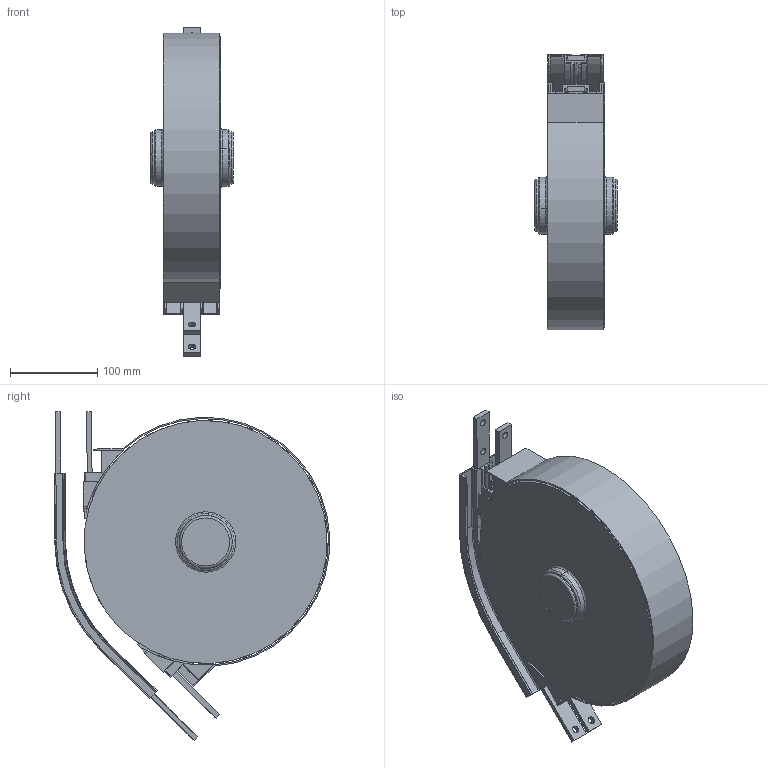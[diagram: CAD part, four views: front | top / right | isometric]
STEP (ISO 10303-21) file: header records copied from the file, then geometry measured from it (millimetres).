
FILE_DESCRIPTION (( 'STEP AP214' ), '1' );
FILE_NAME ('FKWB-45R150A.STEP', '2012-03-20T13:58:02', ( 'gs' ), ( 'Microsoft' ), 'SwSTEP 2.0', 'SolidWorks 2011', '' );
FILE_SCHEMA (( 'AUTOMOTIVE_DESIGN' ));
Length unit declared in the file: millimetre
Products named in the file (11): FKWB-45R150A; WH63003_Default; WH08001-FK_Default; FACS-20X140M-FK_Default; WH63001_Default; WH278063_Default; WH44001K_Default; FAEC-WH_Default; FACS-20X140_Default; FKWB45R150-CB_Default; CP1007-45_Default
Assembly tree (16 placements, depth 2):
  FKWB-45R150A
    FAEC-WH_Default  x2
    WH63001_Default  x2
    CP1007-45_Default
    WH278063_Default  x2
    WH63003_Default
    WH08001-FK_Default  x2
    FACS-20X140_Default  x2
    WH44001K_Default
    FACS-20X140M-FK_Default  x2
    FKWB45R150-CB_Default
Bounding box: 94.5 x 314.84 x 375.97 mm (x, y, z)
Volume: 1548584.1 mm3; surface area: 631825.1 mm2
Topology: 16 solids, 16 shells, 1490 faces, 4021 edges, 2660 vertices
Faces by surface type: plane 807, cylinder 346, bspline 248, torus 85, cone 4
Entity records: 33638 total; most frequent: CARTESIAN_POINT 12803, ORIENTED_EDGE 4494, DIRECTION 3813, EDGE_CURVE 2247, VERTEX_POINT 1482, LINE 1351, VECTOR 1351, AXIS2_PLACEMENT_3D 1231
